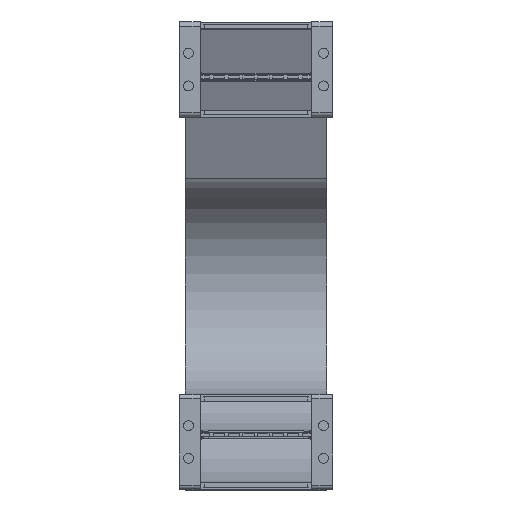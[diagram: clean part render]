
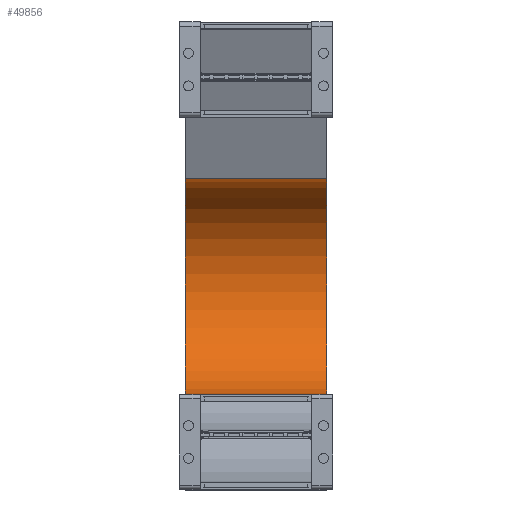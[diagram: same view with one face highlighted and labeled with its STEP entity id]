
A CAD part, top view. The second image highlights one B-rep face of the part: STEP entity #49856.
In plain terms, the highlighted cylindrical face has radius 73 mm (diameter 146 mm), a partial arc.
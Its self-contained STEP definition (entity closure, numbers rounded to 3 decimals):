
#49008=DIRECTION('',(-1.,0.,0.));
#49009=VECTOR('',#49008,95.);
#49010=CARTESIAN_POINT('',(47.5,64.,-500.));
#49011=LINE('',#49010,#49009);
#49022=DIRECTION('',(-1.,0.,0.));
#49023=VECTOR('',#49022,95.);
#49024=CARTESIAN_POINT('',(47.5,209.629,-507.354));
#49025=LINE('',#49024,#49023);
#49029=CARTESIAN_POINT('',(47.5,137.,-500.));
#49030=DIRECTION('',(-1.,0.,0.));
#49031=DIRECTION('',(0.,0.995,-0.101));
#49032=AXIS2_PLACEMENT_3D('',#49029,#49030,#49031);
#49108=CARTESIAN_POINT('',(-47.5,137.,-500.));
#49109=DIRECTION('',(-1.,0.,0.));
#49110=DIRECTION('',(0.,0.995,-0.101));
#49111=AXIS2_PLACEMENT_3D('',#49108,#49109,#49110);
#49230=CARTESIAN_POINT('',(47.5,209.629,-507.354));
#49231=CARTESIAN_POINT('',(-47.5,209.629,-507.354));
#49232=VERTEX_POINT('',#49230);
#49233=VERTEX_POINT('',#49231);
#49254=CARTESIAN_POINT('',(47.5,64.,-500.));
#49255=CARTESIAN_POINT('',(-47.5,64.,-500.));
#49256=VERTEX_POINT('',#49254);
#49257=VERTEX_POINT('',#49255);
#49842=CARTESIAN_POINT('',(1.,137.,-500.));
#49843=DIRECTION('',(-1.,0.,0.));
#49844=DIRECTION('',(0.,-0.995,0.101));
#49845=AXIS2_PLACEMENT_3D('',#49842,#49843,#49844);
#49846=CYLINDRICAL_SURFACE('',#49845,73.);
#49848=ORIENTED_EDGE('',*,*,#49847,.F.);
#49850=ORIENTED_EDGE('',*,*,#49849,.T.);
#49851=ORIENTED_EDGE('',*,*,#49825,.T.);
#49853=ORIENTED_EDGE('',*,*,#49852,.F.);
#49854=EDGE_LOOP('',(#49848,#49850,#49851,#49853));
#49855=FACE_OUTER_BOUND('',#49854,.F.);
#49033=CIRCLE('',#49032,73.);
#49112=CIRCLE('',#49111,73.);
#49825=EDGE_CURVE('',#49256,#49257,#49011,.T.);
#49847=EDGE_CURVE('',#49232,#49233,#49025,.T.);
#49849=EDGE_CURVE('',#49232,#49256,#49033,.T.);
#49852=EDGE_CURVE('',#49233,#49257,#49112,.T.);
#49856=ADVANCED_FACE('',(#49855),#49846,.F.);
